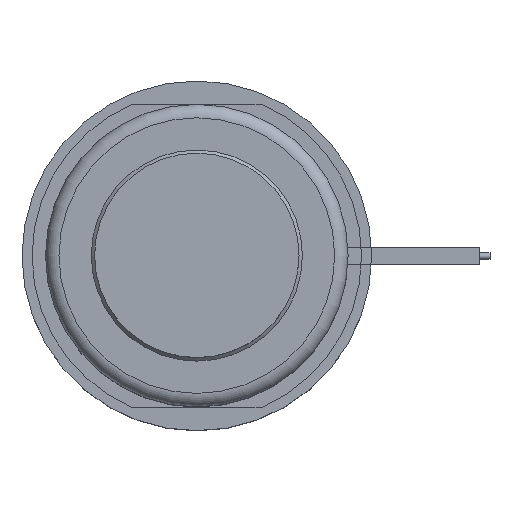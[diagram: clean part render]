
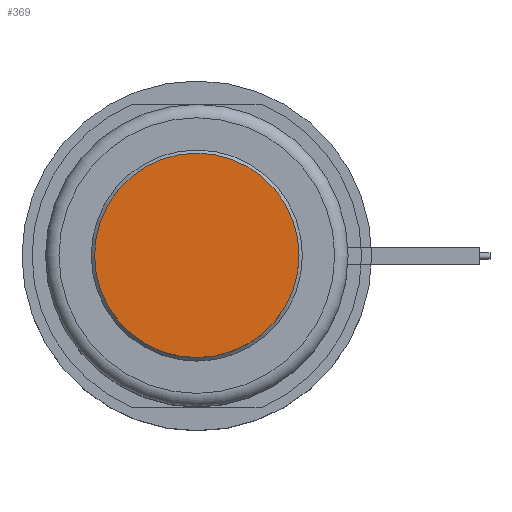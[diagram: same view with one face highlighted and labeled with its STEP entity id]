
A CAD part, top view. The second image highlights one B-rep face of the part: STEP entity #369.
In plain terms, the highlighted planar face has unit normal (0, 0, 1).
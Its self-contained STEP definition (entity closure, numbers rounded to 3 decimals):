
#241=PLANE('',#1323);
#285=FACE_OUTER_BOUND('',#575,.T.);
#369=ADVANCED_FACE('',(#285),#241,.F.);
#575=EDGE_LOOP('',(#715));
#715=ORIENTED_EDGE('',*,*,#1092,.F.);
#982=VERTEX_POINT('',#1889);
#1092=EDGE_CURVE('',#982,#982,#1231,.T.);
#1231=CIRCLE('',#1322,15.2);
#1322=AXIS2_PLACEMENT_3D('',#1888,#1520,#1521);
#1323=AXIS2_PLACEMENT_3D('',#1890,#1522,#1523);
#1520=DIRECTION('',(0.,0.,-1.));
#1521=DIRECTION('',(-1.,0.,0.));
#1522=DIRECTION('',(0.,0.,-1.));
#1523=DIRECTION('',(-1.,0.,0.));
#1888=CARTESIAN_POINT('',(0.,0.,18.));
#1889=CARTESIAN_POINT('',(-15.2,0.,18.));
#1890=CARTESIAN_POINT('',(0.,0.,18.));
